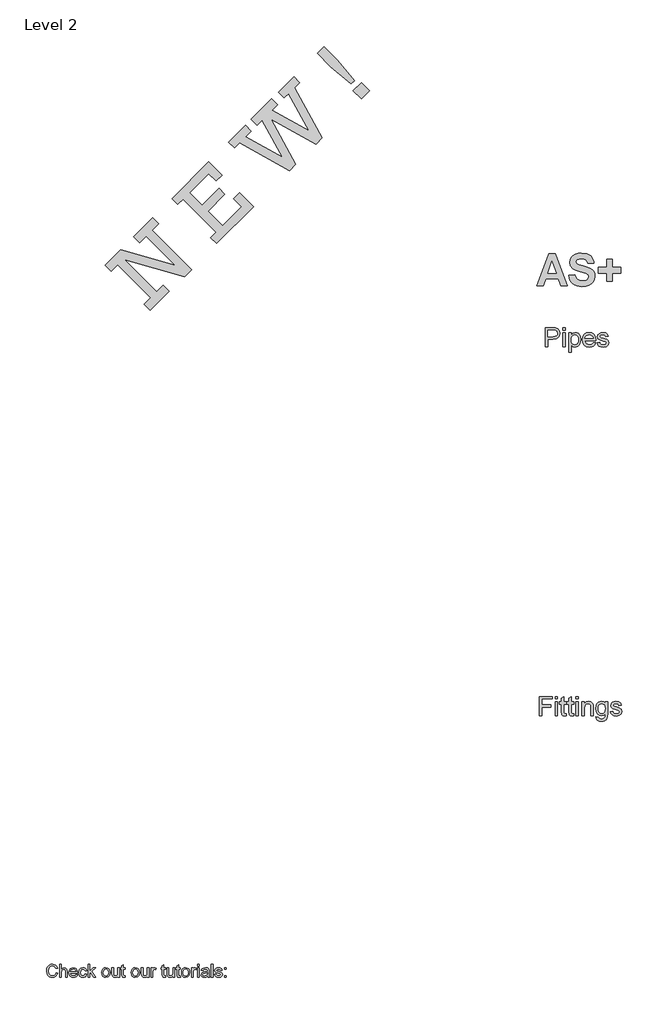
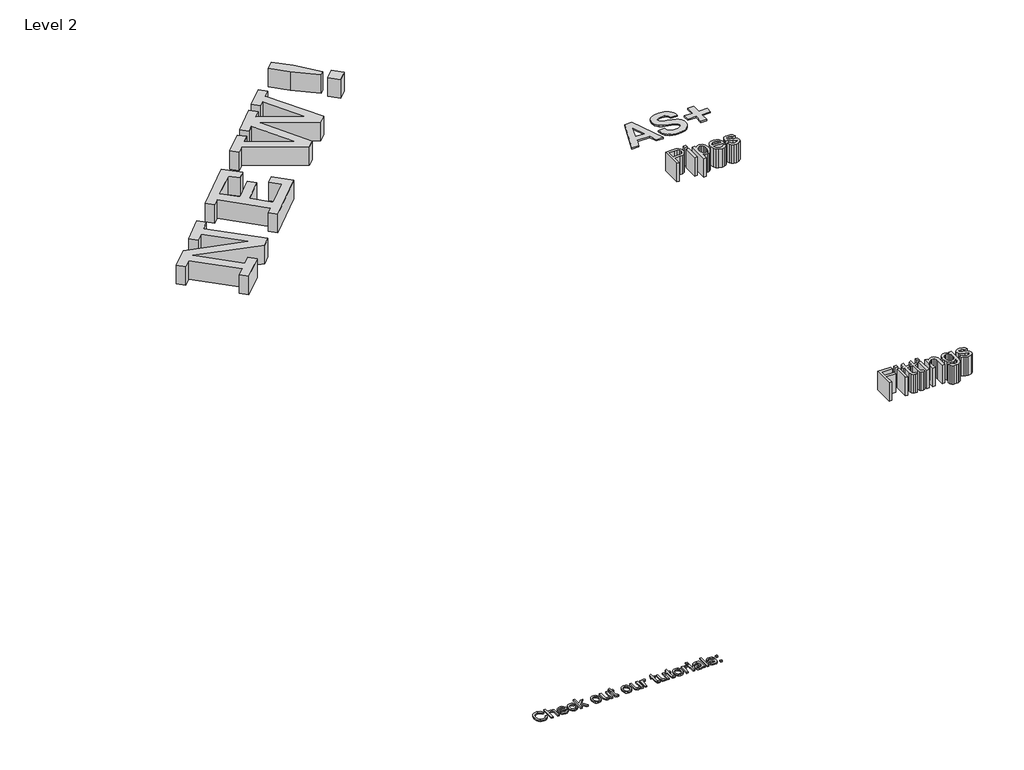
# One storey, incomplete: 5 proxies.
"""IFC4 building model written with IfcOpenShell, lengths in millimetres."""

from ifc_helpers import new_model, si_unit, origin, origin_with_axes, place, context, project, spatial, polyline, outline, extrude, element, save

model = new_model("IFC4")

# Units and contexts
model_context = context("Model", 3, world=origin())
ifc_project = project(units=[si_unit("LENGTHUNIT", "METRE", prefix="MILLI")], contexts=[model_context])

# Site, building, storey
site = spatial("IfcSite", under=ifc_project)
building = spatial("IfcBuilding", under=site)
storey = spatial("IfcBuildingStorey", under=building, Name="Level 2", Elevation=0.0)

# Proxies
placement = place(None, origin())
element("IfcBuildingElementProxy", 1, Name="Rockwell 500", ObjectType="Rockwell 500", at=placement, inside=storey, context=model_context, shape_type="SweptSolid", body=[
    extrude(outline(polyline([(8145.00455, 12157.2754735), (7884.7458252, 12417.5341983), (7832.6940802, 12365.4824533), (7786.4258625, 12411.7506711), (7910.4102272, 12535.7350358), (8339.6563879, 12413.7387585), (8110.3033866, 12643.0917598), (8058.2516417, 12591.0400148), (8011.983424, 12637.3082325), (8162.3551316, 12787.6799402), (8208.6233493, 12741.4117225), (8156.5716044, 12689.3599775), (8468.8820741, 12377.0495078), (8413.0348894, 12321.2023231), (7938.6049224, 12456.2115365), (8191.2727677, 12203.5436912), (8243.3245127, 12255.5954362), (8289.5927304, 12209.3272184), (8139.2210227, 12058.9555108), (8092.952805, 12105.2237285), (8145.00455, 12157.2754735)])), origin_with_axes(), (0.0, 0.0, 1.0), 150.0),
    extrude(outline(polyline([(8659.7384723, 12672.0093958), (8399.4797475, 12932.2681206), (8358.995057, 12891.7834301), (8312.7268393, 12938.0516479), (8601.9032001, 13227.2280087), (8706.0066901, 13123.1245188), (8659.7384723, 13076.8563011), (8601.9032001, 13134.6915732), (8451.5314925, 12984.3198656), (8549.8514552, 12885.9999029), (8682.8725812, 13019.0210289), (8729.1407989, 12972.7528112), (8596.1196729, 12839.7316852), (8711.7902173, 12724.0611408), (8862.1619249, 12874.4328485), (8798.5431255, 12938.0516479), (8844.8113433, 12984.3198656), (8954.6983604, 12874.4328485), (8665.5219995, 12585.2564876), (8619.2537818, 12631.5247053), (8659.7384723, 12672.0093958)])), origin_with_axes(), (0.0, 0.0, 1.0), 150.0),
    extrude(outline(polyline([(9237.9104588, 13157.6449469), (8844.8113433, 13377.5997164), (8804.3266527, 13337.1150259), (8758.058435, 13383.3832436), (8891.079561, 13516.4043696), (8937.3477788, 13470.1361519), (8893.2483837, 13426.0367568), (9184.1417292, 13263.8268919), (9023.7392166, 13556.5275897), (8983.6159965, 13516.4043696), (8937.3477788, 13562.6725873), (9099.2865408, 13724.6113494), (9145.5547586, 13678.3431317), (9102.7205101, 13635.5088832), (9392.3487091, 13472.0338717), (9231.9461964, 13764.7345695), (9197.6065035, 13730.3948767), (9151.3382858, 13776.6630944), (9272.7923574, 13898.117166), (9319.0605751, 13851.8489482), (9278.5758846, 13811.3642577), (9496.1810961, 13415.9155842), (9446.0270711, 13365.7615591), (9094.3163221, 13561.8592788), (9286.889705, 13206.624193), (9237.9104588, 13157.6449469)])), origin_with_axes(), (0.0, 0.0, 1.0), 150.0),
    extrude(outline(polyline([(9751.4696022, 13867.8440157), (9725.2629945, 13841.637408), (9564.0471733, 13977.0080919), (9457.8652283, 14083.1900369), (9509.9169733, 14135.2417819), (9616.0989183, 14029.0598369), (9751.4696022, 13867.8440157)])), origin_with_axes(), (0.0, 0.0, 1.0), 150.0),
    extrude(outline(polyline([(9804.8768614, 13724.6113494), (9741.258062, 13788.2301488), (9804.8768614, 13851.8489482), (9868.4956608, 13788.2301488), (9804.8768614, 13724.6113494)])), origin_with_axes(), (0.0, 0.0, 1.0), 150.0),
])
element("IfcBuildingElementProxy", 2, Name="Arial 100", ObjectType="Arial 100", at=placement, inside=storey, context=model_context, shape_type="SweptSolid", body=[
    extrude(outline(polyline([(7399.7188316, 6842.7370261), (7412.2758703, 6839.4996646), (7406.4817289, 6824.8671582), (7397.3889123, 6814.1771206), (7385.4450101, 6807.6380181), (7371.0976123, 6805.4583173), (7356.532551, 6807.1076549), (7344.9657279, 6812.0556677), (7336.0997719, 6820.1306775), (7329.6373115, 6831.161006), (7324.3765989, 6858.0163917), (7325.8634553, 6872.6642264), (7330.3240245, 6885.3132357), (7337.5253146, 6895.561815), (7347.2343336, 6903.0083597), (7358.74904, 6907.5425053), (7371.3673925, 6909.0538871), (7385.1353761, 6907.0979812), (7396.5182582, 6901.2302634), (7405.1604194, 6891.8124843), (7410.7062405, 6879.2063946), (7398.1492017, 6876.2142877), (7387.8485058, 6891.6530688), (7370.8768831, 6896.4968484), (7351.2319846, 6891.1257712), (7340.1342111, 6876.704797), (7336.9336377, 6858.0409171), (7340.7228223, 6836.4094558), (7352.5195716, 6822.5893555), (7369.8468136, 6818.0153561), (7380.3283847, 6819.5727232), (7389.0625164, 6824.2448245), (7395.6568012, 6831.9826091), (7399.7188316, 6842.7370261)])), origin_with_axes(), (0.0, 0.0, 1.0), 10.0),
    extrude(outline(polyline([(7427.9721688, 6807.0279471), (7427.9721688, 6907.4842573), (7440.5292076, 6907.4842573), (7440.5292076, 6870.548905), (7450.321, 6879.4148611), (7462.3813981, 6882.3701797), (7476.4835412, 6879.1450809), (7485.042929, 6870.2300739), (7487.6181029, 6853.7244351), (7487.6181029, 6807.0279471), (7475.0610642, 6807.0279471), (7475.0610642, 6852.4245853), (7471.0634132, 6865.6683372), (7459.7326477, 6869.813141), (7449.4442146, 6867.0172378), (7442.577084, 6859.4388687), (7440.5292076, 6846.2196424), (7440.5292076, 6807.0279471), (7427.9721688, 6807.0279471)])), origin_with_axes(), (0.0, 0.0, 1.0), 10.0),
    extrude(outline(polyline([(7556.5346634, 6829.002765), (7568.8464475, 6827.4331351), (7564.4104038, 6818.1563775), (7557.331741, 6811.2218019), (7547.7698748, 6806.8991884), (7535.8842207, 6805.4583173), (7521.1505468, 6807.9445864), (7509.81365, 6815.4033939), (7502.5847688, 6827.3503617), (7500.1751417, 6843.3011119), (7502.6092942, 6859.7883566), (7509.9117518, 6872.1185348), (7521.0953645, 6879.8072685), (7535.1729822, 6882.3701797), (7548.8122072, 6879.8133999), (7559.7107113, 6872.1430603), (7566.856819, 6859.8374075), (7569.2388549, 6843.3746883), (7569.1652785, 6839.9901739), (7512.7321805, 6839.9901739), (7514.9057499, 6830.5907889), (7519.9549303, 6823.6807388), (7527.2420595, 6819.4317017), (7536.1294754, 6818.0153561), (7548.4412595, 6820.639581), (7556.5346634, 6829.002765)]), holes=[polyline([(7512.7321805, 6852.5472127), (7556.6818162, 6852.5472127), (7551.6540956, 6863.9270291), (7544.3332439, 6868.341613), (7535.1239313, 6869.813141), (7519.6606247, 6865.1165142), (7514.7953853, 6859.6258754), (7512.7321805, 6852.5472127)])]), origin_with_axes(), (0.0, 0.0, 1.0), 10.0),
    extrude(outline(polyline([(7628.8847891, 6833.7116545), (7641.4418279, 6832.1420247), (7637.9408175, 6820.9737404), (7631.3618612, 6812.5339143), (7622.3242268, 6807.2272165), (7611.4471825, 6805.4583173), (7598.0900004, 6807.9261923), (7587.6452174, 6815.3298175), (7580.9037799, 6827.3442303), (7578.656634, 6843.6444684), (7582.4948695, 6864.5033775), (7594.1935169, 6877.9065449), (7611.2755043, 6882.3701797), (7621.8858341, 6880.8373381), (7630.3685798, 6876.2388132), (7636.4539611, 6868.8198596), (7639.872198, 6858.8257321), (7627.3151592, 6857.2561022), (7621.490361, 6866.6616186), (7611.3736061, 6869.813141), (7603.2587424, 6868.2619052), (7596.8177418, 6863.608198), (7592.61469, 6855.6006332), (7591.2136728, 6843.9878249), (7592.5840332, 6832.2186668), (7596.6951145, 6824.1835108), (7603.0196191, 6819.5573948), (7611.0302496, 6818.0153561), (7622.8637871, 6821.8658543), (7628.8847891, 6833.7116545)])), origin_with_axes(), (0.0, 0.0, 1.0), 10.0),
    extrude(outline(polyline([(7652.4292368, 6807.0279471), (7652.4292368, 6907.4842573), (7664.9862755, 6907.4842573), (7664.9862755, 6853.5037059), (7693.1415109, 6880.8005499), (7710.5055411, 6880.8005499), (7682.0069492, 6853.1603493), (7712.0751709, 6807.0279471), (7697.4089421, 6807.0279471), (7673.006103, 6844.4292833), (7664.9862755, 6836.6547105), (7664.9862755, 6807.0279471), (7652.4292368, 6807.0279471)])), origin_with_axes(), (0.0, 0.0, 1.0), 10.0),
    extrude(outline(polyline([(7759.1640663, 6843.9142485), (7761.8802617, 6861.701343), (7770.0288479, 6874.2031995), (7780.0965518, 6880.3284347), (7792.1508185, 6882.3701797), (7805.3424538, 6879.8839106), (7815.8792072, 6872.4251031), (7822.7861917, 6860.5823686), (7825.0885199, 6844.9443181), (7821.0172924, 6822.6016183), (7809.1592295, 6809.9587404), (7792.1508185, 6805.4583173), (7778.7997678, 6807.9353894), (7768.2752771, 6815.3666057), (7761.441869, 6827.4576606), (7759.1640663, 6843.9142485)]), holes=[polyline([(7771.7211051, 6843.938774), (7773.174239, 6832.574286), (7777.5336406, 6824.4778164), (7784.0942029, 6819.6309712), (7792.1508185, 6818.0153561), (7800.170646, 6819.6401682), (7806.7189456, 6824.5146046), (7811.0783472, 6832.7183731), (7812.5314811, 6844.3311814), (7811.0691502, 6855.3645756), (7806.6821574, 6863.3506806), (7800.1246608, 6868.1975259), (7792.1508185, 6869.813141), (7784.0942029, 6868.2036572), (7777.5336406, 6863.3752061), (7773.174239, 6855.2971306), (7771.7211051, 6843.938774)])]), origin_with_axes(), (0.0, 0.0, 1.0), 10.0),
    extrude(outline(polyline([(7886.3040838, 6807.0279471), (7886.3040838, 6819.7076132), (7876.4693718, 6809.0206413), (7863.6425529, 6805.4583173), (7851.8335409, 6807.9599149), (7843.6910861, 6814.2384342), (7839.9509525, 6823.4845351), (7839.2151885, 6835.158657), (7839.2151885, 6880.8005499), (7851.7722272, 6880.8005499), (7851.7722272, 6841.0692944), (7852.5325167, 6828.267001), (7857.4989236, 6820.7499456), (7866.855389, 6818.0153561), (7877.3400259, 6820.8112592), (7884.2684701, 6828.4264165), (7886.3040838, 6842.4181951), (7886.3040838, 6880.8005499), (7898.8611226, 6880.8005499), (7898.8611226, 6807.0279471), (7886.3040838, 6807.0279471)])), origin_with_axes(), (0.0, 0.0, 1.0), 10.0),
    extrude(outline(polyline([(7942.8107583, 6817.5003213), (7944.3803882, 6806.6600651), (7934.9871345, 6805.4583173), (7924.4657095, 6807.5429819), (7919.2172597, 6813.0121609), (7917.6966808, 6827.2614569), (7917.6966808, 6868.2435111), (7908.2789017, 6868.2435111), (7908.2789017, 6880.8005499), (7917.6966808, 6880.8005499), (7917.6966808, 6898.7286658), (7930.2537195, 6906.1108312), (7930.2537195, 6880.8005499), (7942.8107583, 6880.8005499), (7942.8107583, 6868.2435111), (7930.2537195, 6868.2435111), (7930.2537195, 6827.6293389), (7930.9159071, 6821.1546157), (7933.0618854, 6818.8614846), (7937.3415793, 6818.0153561), (7942.8107583, 6817.5003213)])), origin_with_axes(), (0.0, 0.0, 1.0), 10.0),
    extrude(outline(polyline([(7991.4692835, 6843.9142485), (7994.1854789, 6861.701343), (8002.3340651, 6874.2031995), (8012.4017691, 6880.3284347), (8024.4560358, 6882.3701797), (8037.647671, 6879.8839106), (8048.1844245, 6872.4251031), (8055.0914089, 6860.5823686), (8057.3937371, 6844.9443181), (8053.3225097, 6822.6016183), (8041.4644467, 6809.9587404), (8024.4560358, 6805.4583173), (8011.104985, 6807.9353894), (8000.5804943, 6815.3666057), (7993.7470862, 6827.4576606), (7991.4692835, 6843.9142485)]), holes=[polyline([(8004.0263223, 6843.938774), (8005.4794562, 6832.574286), (8009.8388578, 6824.4778164), (8016.3994201, 6819.6309712), (8024.4560358, 6818.0153561), (8032.4758633, 6819.6401682), (8039.0241628, 6824.5146046), (8043.3835644, 6832.7183731), (8044.8366983, 6844.3311814), (8043.3743674, 6855.3645756), (8038.9873746, 6863.3506806), (8032.429878, 6868.1975259), (8024.4560358, 6869.813141), (8016.3994201, 6868.2036572), (8009.8388578, 6863.3752061), (8005.4794562, 6855.2971306), (8004.0263223, 6843.938774)])]), origin_with_axes(), (0.0, 0.0, 1.0), 10.0),
    extrude(outline(polyline([(8118.6093011, 6807.0279471), (8118.6093011, 6819.7076132), (8108.7745891, 6809.0206413), (8095.9477702, 6805.4583173), (8084.1387581, 6807.9599149), (8075.9963033, 6814.2384342), (8072.2561697, 6823.4845351), (8071.5204057, 6835.158657), (8071.5204057, 6880.8005499), (8084.0774445, 6880.8005499), (8084.0774445, 6841.0692944), (8084.8377339, 6828.267001), (8089.8041408, 6820.7499456), (8099.1606063, 6818.0153561), (8109.6452431, 6820.8112592), (8116.5736874, 6828.4264165), (8118.6093011, 6842.4181951), (8118.6093011, 6880.8005499), (8131.1663398, 6880.8005499), (8131.1663398, 6807.0279471), (8118.6093011, 6807.0279471)])), origin_with_axes(), (0.0, 0.0, 1.0), 10.0),
    extrude(outline(polyline([(8148.4322681, 6807.0279471), (8148.4322681, 6880.8005499), (8159.4196771, 6880.8005499), (8159.4196771, 6869.8867174), (8167.2187754, 6879.9421586), (8175.0669246, 6882.3701797), (8187.6730143, 6878.4951561), (8183.4791596, 6867.237967), (8174.6499917, 6869.813141), (8167.5498692, 6867.3360689), (8163.0249206, 6860.4689383), (8160.9893069, 6845.8027094), (8160.9893069, 6807.0279471), (8148.4322681, 6807.0279471)])), origin_with_axes(), (0.0, 0.0, 1.0), 10.0),
    extrude(outline(polyline([(8261.4456171, 6817.5003213), (8263.0152469, 6806.6600651), (8253.6219933, 6805.4583173), (8243.1005682, 6807.5429819), (8237.8521184, 6813.0121609), (8236.3315395, 6827.2614569), (8236.3315395, 6868.2435111), (8226.9137604, 6868.2435111), (8226.9137604, 6880.8005499), (8236.3315395, 6880.8005499), (8236.3315395, 6898.7286658), (8248.8885783, 6906.1108312), (8248.8885783, 6880.8005499), (8261.4456171, 6880.8005499), (8261.4456171, 6868.2435111), (8248.8885783, 6868.2435111), (8248.8885783, 6827.6293389), (8249.5507659, 6821.1546157), (8251.6967442, 6818.8614846), (8255.9764381, 6818.0153561), (8261.4456171, 6817.5003213)])), origin_with_axes(), (0.0, 0.0, 1.0), 10.0),
    extrude(outline(polyline([(8321.0915512, 6807.0279471), (8321.0915512, 6819.7076132), (8311.2568392, 6809.0206413), (8298.4300203, 6805.4583173), (8286.6210083, 6807.9599149), (8278.4785534, 6814.2384342), (8274.7384198, 6823.4845351), (8274.0026558, 6835.158657), (8274.0026558, 6880.8005499), (8286.5596946, 6880.8005499), (8286.5596946, 6841.0692944), (8287.3199841, 6828.267001), (8292.286391, 6820.7499456), (8301.6428564, 6818.0153561), (8312.1274933, 6820.8112592), (8319.0559375, 6828.4264165), (8321.0915512, 6842.4181951), (8321.0915512, 6880.8005499), (8333.64859, 6880.8005499), (8333.64859, 6807.0279471), (8321.0915512, 6807.0279471)])), origin_with_axes(), (0.0, 0.0, 1.0), 10.0),
    extrude(outline(polyline([(8377.5982257, 6817.5003213), (8379.1678555, 6806.6600651), (8369.7746019, 6805.4583173), (8359.2531768, 6807.5429819), (8354.004727, 6813.0121609), (8352.4841481, 6827.2614569), (8352.4841481, 6868.2435111), (8343.0663691, 6868.2435111), (8343.0663691, 6880.8005499), (8352.4841481, 6880.8005499), (8352.4841481, 6898.7286658), (8365.0411869, 6906.1108312), (8365.0411869, 6880.8005499), (8377.5982257, 6880.8005499), (8377.5982257, 6868.2435111), (8365.0411869, 6868.2435111), (8365.0411869, 6827.6293389), (8365.7033745, 6821.1546157), (8367.8493528, 6818.8614846), (8372.1290467, 6818.0153561), (8377.5982257, 6817.5003213)])), origin_with_axes(), (0.0, 0.0, 1.0), 10.0),
    extrude(outline(polyline([(8387.0160047, 6843.9142485), (8389.7322001, 6861.701343), (8397.8807863, 6874.2031995), (8407.9484903, 6880.3284347), (8420.002757, 6882.3701797), (8433.1943922, 6879.8839106), (8443.7311457, 6872.4251031), (8450.6381301, 6860.5823686), (8452.9404583, 6844.9443181), (8448.8692309, 6822.6016183), (8437.0111679, 6809.9587404), (8420.002757, 6805.4583173), (8406.6517062, 6807.9353894), (8396.1272155, 6815.3666057), (8389.2938074, 6827.4576606), (8387.0160047, 6843.9142485)]), holes=[polyline([(8399.5730435, 6843.938774), (8401.0261774, 6832.574286), (8405.385579, 6824.4778164), (8411.9461413, 6819.6309712), (8420.002757, 6818.0153561), (8428.0225845, 6819.6401682), (8434.570884, 6824.5146046), (8438.9302856, 6832.7183731), (8440.3834195, 6844.3311814), (8438.9210886, 6855.3645756), (8434.5340958, 6863.3506806), (8427.9765992, 6868.1975259), (8420.002757, 6869.813141), (8411.9461413, 6868.2036572), (8405.385579, 6863.3752061), (8401.0261774, 6855.2971306), (8399.5730435, 6843.938774)])]), origin_with_axes(), (0.0, 0.0, 1.0), 10.0),
    extrude(outline(polyline([(8467.0671269, 6807.0279471), (8467.0671269, 6880.8005499), (8478.0545358, 6880.8005499), (8478.0545358, 6869.8867174), (8485.8536341, 6879.9421586), (8493.7017834, 6882.3701797), (8506.3078731, 6878.4951561), (8502.1140183, 6867.237967), (8493.2848504, 6869.813141), (8486.1847279, 6867.3360689), (8481.6597794, 6860.4689383), (8479.6241657, 6845.8027094), (8479.6241657, 6807.0279471), (8467.0671269, 6807.0279471)])), origin_with_axes(), (0.0, 0.0, 1.0), 10.0),
    extrude(outline(polyline([(8514.1560223, 6894.9272185), (8514.1560223, 6907.4842573), (8526.7130611, 6907.4842573), (8526.7130611, 6894.9272185), (8514.1560223, 6894.9272185)])), origin_with_axes(), (0.0, 0.0, 1.0), 10.0),
    extrude(outline(polyline([(8514.1560223, 6807.0279471), (8514.1560223, 6880.8005499), (8526.7130611, 6880.8005499), (8526.7130611, 6807.0279471), (8514.1560223, 6807.0279471)])), origin_with_axes(), (0.0, 0.0, 1.0), 10.0),
    extrude(outline(polyline([(8592.6375146, 6816.4457262), (8580.4606205, 6807.9353894), (8567.0084023, 6805.4583173), (8556.5145683, 6806.9482394), (8548.773718, 6811.4180056), (8544.0004491, 6818.2054284), (8542.4093595, 6826.6483202), (8544.8128552, 6836.5811341), (8551.1281628, 6843.7916212), (8559.9205425, 6847.9118995), (8570.7853241, 6849.8003604), (8592.5639382, 6854.1168425), (8592.6375146, 6856.9127457), (8589.1794238, 6866.183372), (8575.2980099, 6869.813141), (8562.5938183, 6867.3973825), (8556.5360281, 6858.8257321), (8543.9789894, 6860.3953619), (8549.4113802, 6872.6580951), (8560.3497381, 6879.8440567), (8576.9166907, 6882.3701797), (8592.1347425, 6880.1383623), (8600.7309185, 6874.5342932), (8604.5814167, 6866.0116937), (8605.1945534, 6855.0242848), (8605.1945534, 6839.4015627), (8605.8322155, 6817.5861604), (8608.333813, 6807.0279471), (8595.7767743, 6807.0279471), (8592.6375146, 6816.4457262)]), holes=[polyline([(8592.6375146, 6841.5598037), (8572.3794794, 6837.7093055), (8561.5760115, 6835.6736918), (8556.6831809, 6832.3627539), (8554.9663983, 6827.531237), (8558.7065319, 6820.7376828), (8569.6816781, 6818.0153561), (8582.3858697, 6821.0197257), (8590.5773754, 6828.2915265), (8592.5639382, 6838.0036111), (8592.6375146, 6841.5598037)])]), origin_with_axes(), (0.0, 0.0, 1.0), 10.0),
    extrude(outline(polyline([(8622.4604817, 6807.0279471), (8622.4604817, 6907.4842573), (8635.0175204, 6907.4842573), (8635.0175204, 6807.0279471), (8622.4604817, 6807.0279471)])), origin_with_axes(), (0.0, 0.0, 1.0), 10.0),
    extrude(outline(polyline([(8649.144189, 6829.002765), (8661.7012278, 6830.5723948), (8667.5137633, 6821.2527176), (8680.8310916, 6818.0153561), (8693.633385, 6820.9829375), (8697.8027143, 6827.9481699), (8693.6088595, 6833.5890272), (8680.6839388, 6837.1697453), (8661.7748042, 6843.3133746), (8653.5219848, 6850.4870735), (8650.7138189, 6860.6160911), (8652.9701618, 6869.9725565), (8659.1260538, 6877.1217299), (8667.1090931, 6880.8373381), (8677.9125611, 6882.3701797), (8693.1919266, 6879.9053704), (8702.9040113, 6873.2344435), (8707.2204934, 6861.9649917), (8694.6634546, 6860.3953619), (8689.9423023, 6867.3238061), (8678.8935797, 6869.813141), (8666.8761012, 6867.4341707), (8663.2708577, 6861.8914153), (8664.7669111, 6858.2371209), (8669.4512752, 6855.4657432), (8680.2670058, 6852.7924673), (8698.6978938, 6846.8818299), (8707.2572816, 6840.1863776), (8710.359753, 6829.2725451), (8706.7177213, 6817.2550666), (8696.208559, 6808.5362633), (8680.6594133, 6805.4583173), (8667.9981413, 6806.942108), (8658.7581719, 6811.3934801), (8652.5900171, 6818.7633828), (8649.144189, 6829.002765)])), origin_with_axes(), (0.0, 0.0, 1.0), 10.0),
    extrude(outline(polyline([(8727.6256814, 6807.0279471), (8727.6256814, 6819.5849859), (8740.1827201, 6819.5849859), (8740.1827201, 6807.0279471), (8727.6256814, 6807.0279471)])), origin_with_axes(), (0.0, 0.0, 1.0), 10.0),
    extrude(outline(polyline([(8727.6256814, 6868.2435111), (8727.6256814, 6880.8005499), (8740.1827201, 6880.8005499), (8740.1827201, 6868.2435111), (8727.6256814, 6868.2435111)])), origin_with_axes(), (0.0, 0.0, 1.0), 10.0),
])
element("IfcBuildingElementProxy", 3, Name="Arial 150", ObjectType="Arial 150", at=placement, inside=storey, context=model_context, shape_type="SweptSolid", body=[
    extrude(outline(polyline([(11256.0793864, 11770.6273721), (11256.0793864, 11921.3118373), (11311.9238733, 11921.3118373), (11334.4382514, 11919.8770975), (11352.7403807, 11912.8321573), (11364.604575, 11898.2640303), (11369.0927353, 11877.7178209), (11366.0623074, 11859.9583176), (11356.9710236, 11845.1602643), (11339.9702769, 11835.1722682), (11313.2114603, 11831.8429361), (11274.9149446, 11831.8429361), (11274.9149446, 11770.6273721), (11256.0793864, 11770.6273721)]), holes=[polyline([(11274.9149446, 11850.6784943), (11314.3151063, 11850.6784943), (11331.0169488, 11852.4075396), (11342.0534087, 11857.5946758), (11348.2062351, 11865.9180059), (11350.2571772, 11877.0556333), (11345.4195289, 11892.6538299), (11332.709206, 11901.1886922), (11313.8736479, 11902.4762792), (11274.9149446, 11902.4762792), (11274.9149446, 11850.6784943)])]), origin_with_axes(), (0.0, 0.0, 1.0), 150.0),
    extrude(outline(polyline([(11392.637183, 11770.6273721), (11392.637183, 11881.2862763), (11411.4727412, 11881.2862763), (11411.4727412, 11770.6273721), (11392.637183, 11770.6273721)])), origin_with_axes(), (0.0, 0.0, 1.0), 150.0),
    extrude(outline(polyline([(11392.637183, 11902.4762792), (11392.637183, 11921.3118373), (11411.4727412, 11921.3118373), (11411.4727412, 11902.4762792), (11392.637183, 11902.4762792)])), origin_with_axes(), (0.0, 0.0, 1.0), 150.0),
    extrude(outline(polyline([(11439.7260784, 11728.2473663), (11439.7260784, 11881.2862763), (11458.5616366, 11881.2862763), (11458.5616366, 11862.8186001), (11471.5846592, 11878.4351908), (11489.1694186, 11883.640721), (11501.9073326, 11881.8197051), (11513.0449601, 11876.3566575), (11522.1132512, 11867.5826719), (11528.6431566, 11855.8288422), (11533.9038692, 11826.8029528), (11532.4185456, 11810.6943199), (11527.962575, 11796.2871413), (11520.6785115, 11784.3125823), (11510.7089094, 11775.5018085), (11499.0976339, 11770.0801476), (11486.8885502, 11768.2729273), (11470.4994073, 11773.1105756), (11458.5616366, 11785.3426519), (11458.5616366, 11728.2473663), (11439.7260784, 11728.2473663)]), holes=[polyline([(11458.5616366, 11825.0739074), (11460.5987831, 11808.1881238), (11466.7102228, 11796.3791118), (11475.7279302, 11789.4261421), (11486.48388, 11787.1084855), (11497.4145738, 11789.5089155), (11506.6622074, 11796.7102056), (11512.9667851, 11808.951479), (11515.068311, 11826.471859), (11513.0173689, 11843.2656721), (11506.8645425, 11855.240231), (11497.8606307, 11862.4139299), (11487.2564322, 11864.8051629), (11476.610847, 11862.2621786), (11467.2620458, 11854.6332257), (11460.7367389, 11842.1574275), (11458.5616366, 11825.0739074)])]), origin_with_axes(), (0.0, 0.0, 1.0), 150.0),
    extrude(outline(polyline([(11632.5698203, 11803.5895989), (11651.0374964, 11801.2351541), (11644.3834309, 11787.3200176), (11633.7654368, 11776.9181542), (11619.4226375, 11770.4342341), (11601.5941563, 11768.2729273), (11579.4936454, 11772.0023311), (11562.4883002, 11783.1905422), (11551.6449784, 11801.1109939), (11548.0305378, 11825.0371192), (11551.6817666, 11849.7679863), (11562.635453, 11868.2632536), (11579.410872, 11879.7963542), (11600.5272985, 11883.640721), (11620.986136, 11879.8055512), (11637.3338921, 11868.3000418), (11648.0530538, 11849.8415627), (11651.6261076, 11825.1474838), (11651.515743, 11820.0707123), (11566.8660959, 11820.0707123), (11570.1264501, 11805.9716348), (11577.7002207, 11795.6065596), (11588.6309145, 11789.233004), (11601.9620383, 11787.1084855), (11620.4297144, 11791.0448228), (11632.5698203, 11803.5895989)]), holes=[polyline([(11566.8660959, 11838.9062704), (11632.7905495, 11838.9062704), (11630.2429667, 11848.8574784), (11625.2489686, 11855.975995), (11614.267691, 11862.5978709), (11600.4537221, 11864.8051629), (11587.7571947, 11863.0439278), (11577.2587623, 11857.7602227), (11569.9609032, 11849.5242645), (11566.8660959, 11838.9062704)])]), origin_with_axes(), (0.0, 0.0, 1.0), 150.0),
    extrude(outline(polyline([(11663.3983315, 11803.5895989), (11682.2338896, 11805.9440436), (11685.2045367, 11797.8874279), (11690.9526929, 11791.9645278), (11710.9286853, 11787.1084855), (11730.1321254, 11791.5598576), (11736.3861193, 11802.0077063), (11734.8134238, 11806.8085663), (11730.0953372, 11810.4689922), (11710.7079561, 11815.8400693), (11682.3442542, 11825.0555133), (11669.9650251, 11835.8160617), (11665.7527762, 11851.0095881), (11669.1372906, 11865.0442862), (11678.3711287, 11875.7680463), (11690.3456876, 11881.3414586), (11706.5508895, 11883.640721), (11729.4699378, 11879.943507), (11744.0380648, 11869.9371167), (11750.5127879, 11853.032939), (11731.6772298, 11850.6784943), (11724.5955014, 11861.0711606), (11708.0224175, 11864.8051629), (11689.9961997, 11861.2367075), (11684.5883344, 11852.9225744), (11686.8324146, 11847.4411327), (11693.8589607, 11843.2840662), (11710.0825567, 11839.2741524), (11737.7288886, 11830.4081963), (11750.5679702, 11820.3650179), (11755.2216775, 11803.9942691), (11749.7586298, 11785.9680513), (11733.9948864, 11772.8898464), (11710.6711679, 11768.2729273), (11691.6792599, 11770.4986134), (11677.8193057, 11777.1756716), (11668.5670735, 11788.2305256), (11663.3983315, 11803.5895989)])), origin_with_axes(), (0.0, 0.0, 1.0), 150.0),
])
element("IfcBuildingElementProxy", 4, Name="Arial 150", ObjectType="Arial 150", at=placement, inside=storey, context=model_context, shape_type="SweptSolid", body=[
    extrude(outline(polyline([(11207.00877, 8866.3276596), (11207.00877, 9017.0121248), (11308.249895, 9017.0121248), (11308.249895, 8998.1765667), (11225.8443281, 8998.1765667), (11225.8443281, 8953.4421161), (11296.4776712, 8953.4421161), (11296.4776712, 8934.6065579), (11225.8443281, 8934.6065579), (11225.8443281, 8866.3276596), (11207.00877, 8866.3276596)])), origin_with_axes(), (0.0, 0.0, 1.0), 150.0),
    extrude(outline(polyline([(11331.7943427, 8866.3276596), (11331.7943427, 8976.9865638), (11350.6299009, 8976.9865638), (11350.6299009, 8866.3276596), (11331.7943427, 8866.3276596)])), origin_with_axes(), (0.0, 0.0, 1.0), 150.0),
    extrude(outline(polyline([(11331.7943427, 8998.1765667), (11331.7943427, 9017.0121248), (11350.6299009, 9017.0121248), (11350.6299009, 8998.1765667), (11331.7943427, 8998.1765667)])), origin_with_axes(), (0.0, 0.0, 1.0), 150.0),
    extrude(outline(polyline([(11418.9087992, 8882.0362208), (11421.263244, 8865.7758366), (11407.1733635, 8863.9732149), (11391.391226, 8867.1002118), (11383.5185513, 8875.3039803), (11381.2376829, 8896.6779242), (11381.2376829, 8958.1510056), (11367.1110143, 8958.1510056), (11367.1110143, 8976.9865638), (11381.2376829, 8976.9865638), (11381.2376829, 9003.8787376), (11400.073241, 9014.9519857), (11400.073241, 8976.9865638), (11418.9087992, 8976.9865638), (11418.9087992, 8958.1510056), (11400.073241, 8958.1510056), (11400.073241, 8897.2297472), (11401.0665224, 8887.5176625), (11404.2854899, 8884.0779659), (11410.7050307, 8882.808773), (11418.9087992, 8882.0362208)])), origin_with_axes(), (0.0, 0.0, 1.0), 150.0),
    extrude(outline(polyline([(11477.7699184, 8882.0362208), (11480.1243632, 8865.7758366), (11466.0344828, 8863.9732149), (11450.2523452, 8867.1002118), (11442.3796705, 8875.3039803), (11440.0988021, 8896.6779242), (11440.0988021, 8958.1510056), (11425.9721335, 8958.1510056), (11425.9721335, 8976.9865638), (11440.0988021, 8976.9865638), (11440.0988021, 9003.8787376), (11458.9343603, 9014.9519857), (11458.9343603, 8976.9865638), (11477.7699184, 8976.9865638), (11477.7699184, 8958.1510056), (11458.9343603, 8958.1510056), (11458.9343603, 8897.2297472), (11459.9276417, 8887.5176625), (11463.1466091, 8884.0779659), (11469.5661499, 8882.808773), (11477.7699184, 8882.0362208)])), origin_with_axes(), (0.0, 0.0, 1.0), 150.0),
    extrude(outline(polyline([(11496.6054766, 8998.1765667), (11496.6054766, 9017.0121248), (11515.4410347, 9017.0121248), (11515.4410347, 8998.1765667), (11496.6054766, 8998.1765667)])), origin_with_axes(), (0.0, 0.0, 1.0), 150.0),
    extrude(outline(polyline([(11496.6054766, 8866.3276596), (11496.6054766, 8976.9865638), (11515.4410347, 8976.9865638), (11515.4410347, 8866.3276596), (11496.6054766, 8866.3276596)])), origin_with_axes(), (0.0, 0.0, 1.0), 150.0),
    extrude(outline(polyline([(11543.694372, 8866.3276596), (11543.694372, 8976.9865638), (11562.5299301, 8976.9865638), (11562.5299301, 8961.53552), (11576.9325102, 8974.8896364), (11596.5958029, 8979.3410085), (11614.3828973, 8975.7541591), (11626.5230032, 8966.33638), (11632.1699918, 8952.4856229), (11633.1632732, 8934.2754641), (11633.1632732, 8866.3276596), (11614.327715, 8866.3276596), (11614.327715, 8931.7370784), (11612.1572113, 8948.4021327), (11604.4868717, 8957.2129065), (11591.5558195, 8960.5054504), (11580.5239582, 8958.6568434), (11571.1199747, 8953.1110223), (11564.6774413, 8942.3964592), (11562.5299301, 8925.0416261), (11562.5299301, 8866.3276596), (11543.694372, 8866.3276596)])), origin_with_axes(), (0.0, 0.0, 1.0), 150.0),
    extrude(outline(polyline([(11654.3532761, 8856.9098805), (11673.1888343, 8854.5554358), (11679.2956754, 8844.6226219), (11697.5794105, 8840.4287672), (11716.8564271, 8845.1744449), (11726.053477, 8858.4917731), (11727.3410639, 8880.4543282), (11714.078918, 8869.8593268), (11697.9105043, 8866.3276596), (11678.4909335, 8870.4387409), (11664.0101785, 8882.7719848), (11655.0016681, 8900.8533849), (11651.9988313, 8922.2089347), (11657.3883026, 8951.400371), (11663.9825873, 8963.2507698), (11672.9864992, 8972.056945), (11684.0919369, 8977.5199927), (11696.9907993, 8979.3410085), (11713.7938095, 8975.2207302), (11727.3410639, 8962.8598952), (11727.3410639, 8976.9865638), (11746.1766221, 8976.9865638), (11746.1766221, 8881.4476096), (11744.8890351, 8859.3884855), (11741.0262742, 8844.8617452), (11734.3722086, 8835.2278355), (11724.7107077, 8827.8472029), (11712.2533036, 8823.1567075), (11697.2115285, 8821.593209), (11679.68655, 8823.7959025), (11665.8863767, 8830.4039828), (11657.0342161, 8841.4358441), (11654.3532761, 8856.9098805)]), holes=[polyline([(11670.8343895, 8923.4965217), (11672.8439449, 8906.2198635), (11678.8726111, 8894.3418736), (11687.9363037, 8887.4578817), (11699.0509385, 8885.1632178), (11710.0827998, 8887.4440861), (11719.1924778, 8894.2866913), (11725.3039174, 8906.0129299), (11727.3410639, 8922.9446987), (11725.2441366, 8939.2740607), (11718.9533545, 8951.032489), (11709.7103193, 8958.13721), (11698.7566329, 8960.5054504), (11688.0006831, 8958.1739982), (11678.9829757, 8951.1796418), (11672.871536, 8939.5959575), (11670.8343895, 8923.4965217)])]), origin_with_axes(), (0.0, 0.0, 1.0), 150.0),
    extrude(outline(polyline([(11767.366625, 8899.2898864), (11786.2021832, 8901.6443312), (11789.1728303, 8893.5877155), (11794.9209865, 8887.6648153), (11814.8969788, 8882.808773), (11834.1004189, 8887.2601451), (11840.3544129, 8897.7079938), (11838.7817173, 8902.5088538), (11834.0636307, 8906.1692797), (11814.6762496, 8911.5403568), (11786.3125478, 8920.7558008), (11773.9333186, 8931.5163492), (11769.7210698, 8946.7098756), (11773.1055841, 8960.7445737), (11782.3394222, 8971.4683338), (11794.3139812, 8977.0417461), (11810.5191831, 8979.3410085), (11833.4382314, 8975.6437945), (11848.0063584, 8965.6374042), (11854.4810815, 8948.7332265), (11835.6455233, 8946.3787818), (11828.5637949, 8956.7714481), (11811.990711, 8960.5054504), (11793.9644933, 8956.936995), (11788.5566279, 8948.6228619), (11790.8007081, 8943.1414202), (11797.8272542, 8938.9843537), (11814.0508502, 8934.9744399), (11841.6971821, 8926.1084838), (11854.5362638, 8916.0653054), (11859.189971, 8899.6945566), (11853.7269234, 8881.6683388), (11837.9631799, 8868.5901339), (11814.6394614, 8863.9732149), (11795.6475534, 8866.1989009), (11781.7875992, 8872.8759591), (11772.5353671, 8883.9308131), (11767.366625, 8899.2898864)])), origin_with_axes(), (0.0, 0.0, 1.0), 150.0),
])
element("IfcBuildingElementProxy", 5, Name="Arial 250", ObjectType="Arial 250", at=placement, inside=storey, context=model_context, shape_type="SweptSolid", body=[
    extrude(outline(polyline([(11427.1742706, 12249.9270846), (11376.1233446, 12249.9270846), (11356.133143, 12306.6081624), (11259.7879628, 12306.6081624), (11240.0508018, 12249.9270846), (11188.3040143, 12249.9270846), (11281.4229278, 12504.9919346), (11333.1697153, 12504.9919346), (11427.1742706, 12249.9270846)]), holes=[polyline([(11340.5711507, 12351.1432949), (11307.7391425, 12444.2622084), (11275.3499552, 12351.1432949), (11340.5711507, 12351.1432949)])]), origin_with_axes(), (0.0, 0.0, 1.0), 10.0),
    extrude(outline(polyline([(11439.3202159, 12334.9487013), (11487.9039968, 12338.9973497), (11494.9891316, 12317.2674945), (11506.8820363, 12302.1799532), (11523.6617861, 12293.3551648), (11545.4074563, 12290.4135687), (11567.9755082, 12293.0151416), (11584.1859169, 12300.8198603), (11593.9596072, 12312.1038863), (11597.217504, 12325.1433809), (11591.8087627, 12340.3574425), (11572.8623534, 12351.2698152), (11530.7311058, 12362.0872976), (11494.7677211, 12373.2685259), (11471.3931025, 12386.9485293), (11453.4114102, 12410.2440727), (11447.4175127, 12438.1259756), (11450.1693284, 12456.9142347), (11458.4247756, 12474.4372911), (11471.8675535, 12489.319237), (11490.1813616, 12500.1841646), (11513.0657141, 12506.8264784), (11540.2201255, 12509.040583), (11582.1853152, 12503.5211365), (11598.7258627, 12496.6218284), (11612.3050453, 12486.9627971), (11622.9663543, 12475.0026785), (11630.7532812, 12461.2001086), (11635.6658257, 12445.5550873), (11637.7039881, 12428.0676147), (11589.1202071, 12428.0676147), (11583.7510035, 12444.7603819), (11574.4754867, 12455.9969628), (11560.439645, 12462.3783285), (11540.7894667, 12464.5054505), (11520.1034037, 12462.2439008), (11504.4781513, 12455.4592517), (11498.1205081, 12448.6587875), (11496.0012937, 12439.8972593), (11497.9307277, 12431.6259971), (11503.7190297, 12424.6515676), (11520.5225021, 12416.4831032), (11551.3222786, 12408.0457831), (11584.1938244, 12399.2684399), (11607.2126047, 12390.0799058), (11623.3439383, 12378.9540302), (11635.5531436, 12364.3646624), (11643.2392496, 12346.1299295), (11645.8012849, 12324.0679586), (11642.7727061, 12303.0023349), (11633.6869697, 12283.328434), (11619.0580644, 12266.7859096), (11599.3999785, 12255.1144154), (11574.4992093, 12248.187431), (11544.1422537, 12245.8784362), (11521.439774, 12247.2998123), (11501.5365552, 12251.5639405), (11484.4325971, 12258.6708209), (11470.1278999, 12268.6204534), (11458.5236195, 12281.2942254), (11449.5209121, 12296.573524), (11443.1197775, 12314.4583493), (11439.3202159, 12334.9487013)])), origin_with_axes(), (0.0, 0.0, 1.0), 10.0),
    extrude(outline(polyline([(11738.9201984, 12286.3649203), (11738.9201984, 12351.1432949), (11674.1418238, 12351.1432949), (11674.1418238, 12395.6784274), (11738.9201984, 12395.6784274), (11738.9201984, 12460.456802), (11783.4553309, 12460.456802), (11783.4553309, 12395.6784274), (11848.2337055, 12395.6784274), (11848.2337055, 12351.1432949), (11783.4553309, 12351.1432949), (11783.4553309, 12286.3649203), (11738.9201984, 12286.3649203)])), origin_with_axes(), (0.0, 0.0, 1.0), 10.0),
])

save(model, "model.ifc")
